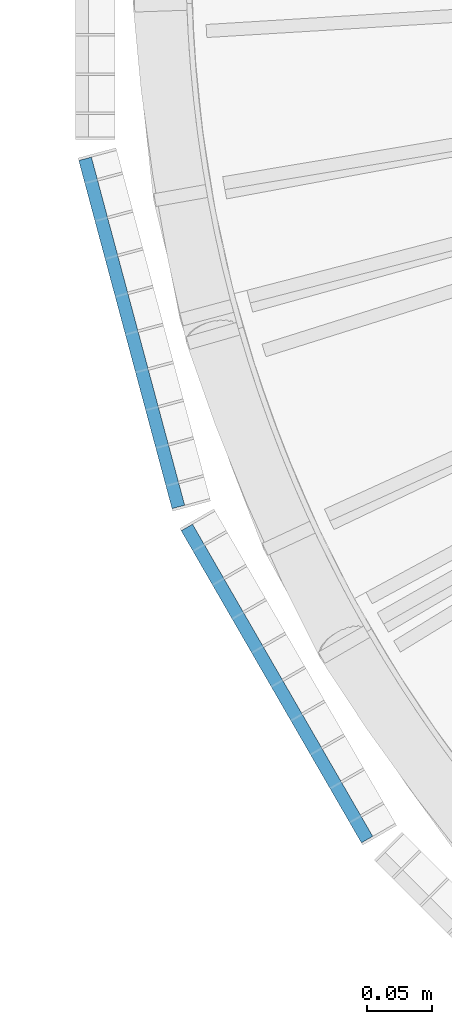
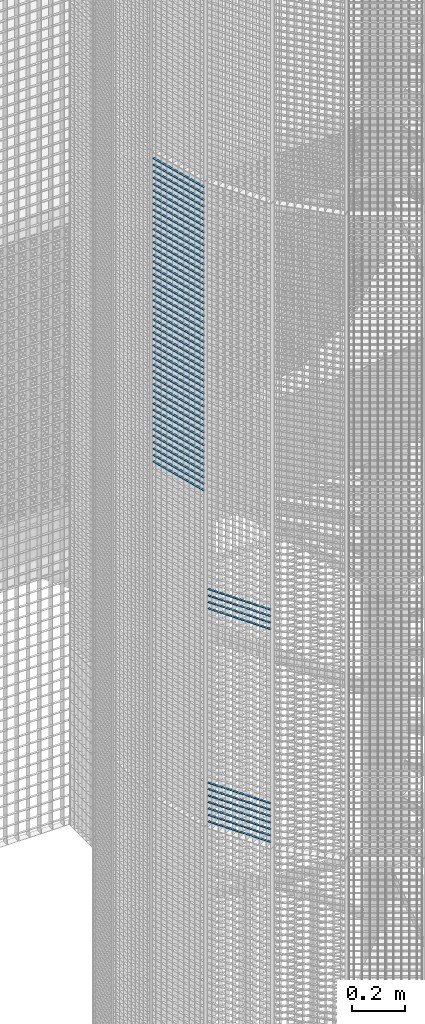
# One storey, part 121 of 1148: 59 beams, 2 elements without a shape of their own.
"""IFC2X3 building model written with IfcOpenShell, lengths in millimetres."""

from ifc_helpers import new_model, si_unit, frame, origin_with_axes, origin_2d_with_axis, place, context, subcontext, project, spatial, rectangle, extrude, material, type_object, element, aggregate, save


model = new_model("IFC2X3")

# Units and contexts
model_context = context("Model", 3, precision=1e-05, world=origin_with_axes())
body_context = subcontext(model_context, "Body", "Model", "MODEL_VIEW")
ifc_project = project(units=[si_unit("LENGTHUNIT", "METRE", prefix="MILLI"), si_unit("AREAUNIT", "SQUARE_METRE"), si_unit("VOLUMEUNIT", "CUBIC_METRE"), si_unit("MASSUNIT", "GRAM", prefix="KILO"), si_unit("TIMEUNIT", "SECOND"), si_unit("PLANEANGLEUNIT", "RADIAN"), si_unit("SOLIDANGLEUNIT", "STERADIAN"), si_unit("THERMODYNAMICTEMPERATUREUNIT", "DEGREE_CELSIUS"), si_unit("LUMINOUSINTENSITYUNIT", "LUMEN")], contexts=[model_context])

# Site, building, storey
site_placement = place(None, origin_with_axes())
site = spatial("IfcSite", under=ifc_project, at=site_placement, Name="Undefined", CompositionType="ELEMENT")
building_placement = place(site_placement, origin_with_axes())
building = spatial("IfcBuilding", under=site, at=building_placement, Name="Undefined", CompositionType="ELEMENT")
storey_placement = place(building_placement, origin_with_axes())
storey = spatial("IfcBuildingStorey", under=building, at=storey_placement, Name="Undefined", CompositionType="ELEMENT", Elevation=0.0)

# Assembly, beams
assembly_1_placement = place(storey_placement, origin_with_axes())
assembly_1 = element("IfcElementAssembly", 1, at=assembly_1_placement, inside=storey, Name="BORDURE", AssemblyPlace="NOTDEFINED", PredefinedType="NOTDEFINED")
ifc_material = material(Name="STEEL/S235JR")
beam_type = type_object("IfcBeamType", Name="PL2*10", PredefinedType="NOTDEFINED")
beam_1_placement = place(assembly_1_placement, frame((-1033.29996828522, -437.231955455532, 7020.0), z_axis=(-0.866025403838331, -0.499999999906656, 0.0), x_axis=(0.499999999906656, -0.866025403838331, 0.0)))
beam_1 = element("IfcBeam", 2, at=beam_1_placement, type_object=beam_type, material=ifc_material, Name="ENTRETOISE", context=body_context, shape_type="SweptSolid", body=[
    extrude(rectangle(XDim=2.0, YDim=10.0, at=origin_2d_with_axis()), frame((275.999999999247, 9.09494701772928e-13, 1.53210777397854e-14), z_axis=(-1.0, 0.0, 0.0), x_axis=(0.0, -1.0, 0.0)), (0.0, 0.0, 1.0), 276.0),
])
beam_2_placement = place(assembly_1_placement, frame((-1033.29996828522, -437.231955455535, 6210.0), z_axis=(-0.866025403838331, -0.499999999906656, 0.0), x_axis=(0.499999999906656, -0.866025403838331, 0.0)))
beam_2 = element("IfcBeam", 3, at=beam_2_placement, type_object=beam_type, material=ifc_material, Name="ENTRETOISE", context=body_context, shape_type="SweptSolid", body=[
    extrude(rectangle(XDim=2.0, YDim=10.0, at=origin_2d_with_axis()), frame((275.999999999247, 9.09494701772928e-13, 1.53210777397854e-14), z_axis=(-1.0, 0.0, 0.0), x_axis=(0.0, -1.0, 0.0)), (0.0, 0.0, 1.0), 276.0),
])
beam_3_placement = place(assembly_1_placement, frame((-1033.29996828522, -437.231955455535, 6180.0), z_axis=(-0.866025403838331, -0.499999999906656, 0.0), x_axis=(0.499999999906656, -0.866025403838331, 0.0)))
beam_3 = element("IfcBeam", 4, at=beam_3_placement, type_object=beam_type, material=ifc_material, Name="ENTRETOISE", context=body_context, shape_type="SweptSolid", body=[
    extrude(rectangle(XDim=2.0, YDim=10.0, at=origin_2d_with_axis()), frame((275.999999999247, 9.09494701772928e-13, 1.53210777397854e-14), z_axis=(-1.0, 0.0, 0.0), x_axis=(0.0, -1.0, 0.0)), (0.0, 0.0, 1.0), 276.0),
])
beam_4_placement = place(assembly_1_placement, frame((-1033.29996828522, -437.231955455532, 7050.0), z_axis=(-0.866025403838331, -0.499999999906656, 0.0), x_axis=(0.499999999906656, -0.866025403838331, 0.0)))
beam_4 = element("IfcBeam", 5, at=beam_4_placement, type_object=beam_type, material=ifc_material, Name="ENTRETOISE", context=body_context, shape_type="SweptSolid", body=[
    extrude(rectangle(XDim=2.0, YDim=10.0, at=origin_2d_with_axis()), frame((275.999999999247, 9.09494701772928e-13, 1.53210777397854e-14), z_axis=(-1.0, 0.0, 0.0), x_axis=(0.0, -1.0, 0.0)), (0.0, 0.0, 1.0), 276.0),
])
beam_5_placement = place(assembly_1_placement, frame((-1033.29996828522, -437.231955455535, 6150.0), z_axis=(-0.866025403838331, -0.499999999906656, 0.0), x_axis=(0.499999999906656, -0.866025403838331, 0.0)))
beam_5 = element("IfcBeam", 6, at=beam_5_placement, type_object=beam_type, material=ifc_material, Name="ENTRETOISE", context=body_context, shape_type="SweptSolid", body=[
    extrude(rectangle(XDim=2.0, YDim=10.0, at=origin_2d_with_axis()), frame((275.999999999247, 9.09494701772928e-13, 1.53210777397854e-14), z_axis=(-1.0, 0.0, 0.0), x_axis=(0.0, -1.0, 0.0)), (0.0, 0.0, 1.0), 276.0),
])
beam_6_placement = place(assembly_1_placement, frame((-1033.29996828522, -437.231955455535, 6120.0), z_axis=(-0.866025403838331, -0.499999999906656, 0.0), x_axis=(0.499999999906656, -0.866025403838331, 0.0)))
beam_6 = element("IfcBeam", 7, at=beam_6_placement, type_object=beam_type, material=ifc_material, Name="ENTRETOISE", context=body_context, shape_type="SweptSolid", body=[
    extrude(rectangle(XDim=2.0, YDim=10.0, at=origin_2d_with_axis()), frame((275.999999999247, 9.09494701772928e-13, 1.53210777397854e-14), z_axis=(-1.0, 0.0, 0.0), x_axis=(0.0, -1.0, 0.0)), (0.0, 0.0, 1.0), 276.0),
])
beam_7_placement = place(assembly_1_placement, frame((-1033.29996828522, -437.231955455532, 7080.0), z_axis=(-0.866025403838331, -0.499999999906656, 0.0), x_axis=(0.499999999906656, -0.866025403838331, 0.0)))
beam_7 = element("IfcBeam", 8, at=beam_7_placement, type_object=beam_type, material=ifc_material, Name="ENTRETOISE", context=body_context, shape_type="SweptSolid", body=[
    extrude(rectangle(XDim=2.0, YDim=10.0, at=origin_2d_with_axis()), frame((275.999999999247, 9.09494701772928e-13, 1.53210777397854e-14), z_axis=(-1.0, 0.0, 0.0), x_axis=(0.0, -1.0, 0.0)), (0.0, 0.0, 1.0), 276.0),
])
beam_8_placement = place(assembly_1_placement, frame((-1033.29996828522, -437.231955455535, 6090.0), z_axis=(-0.866025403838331, -0.499999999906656, 0.0), x_axis=(0.499999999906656, -0.866025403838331, 0.0)))
beam_8 = element("IfcBeam", 9, at=beam_8_placement, type_object=beam_type, material=ifc_material, Name="ENTRETOISE", context=body_context, shape_type="SweptSolid", body=[
    extrude(rectangle(XDim=2.0, YDim=10.0, at=origin_2d_with_axis()), frame((275.999999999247, 9.09494701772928e-13, 1.53210777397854e-14), z_axis=(-1.0, 0.0, 0.0), x_axis=(0.0, -1.0, 0.0)), (0.0, 0.0, 1.0), 276.0),
])
beam_9_placement = place(assembly_1_placement, frame((-1033.29996828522, -437.231955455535, 6060.0), z_axis=(-0.866025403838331, -0.499999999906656, 0.0), x_axis=(0.499999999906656, -0.866025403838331, 0.0)))
beam_9 = element("IfcBeam", 10, at=beam_9_placement, type_object=beam_type, material=ifc_material, Name="ENTRETOISE", context=body_context, shape_type="SweptSolid", body=[
    extrude(rectangle(XDim=2.0, YDim=10.0, at=origin_2d_with_axis()), frame((275.999999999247, 9.09494701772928e-13, 1.53210777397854e-14), z_axis=(-1.0, 0.0, 0.0), x_axis=(0.0, -1.0, 0.0)), (0.0, 0.0, 1.0), 276.0),
])
beam_10_placement = place(assembly_1_placement, frame((-1033.29996828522, -437.231955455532, 7110.0), z_axis=(-0.866025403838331, -0.499999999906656, 0.0), x_axis=(0.499999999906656, -0.866025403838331, 0.0)))
beam_10 = element("IfcBeam", 11, at=beam_10_placement, type_object=beam_type, material=ifc_material, Name="ENTRETOISE", context=body_context, shape_type="SweptSolid", body=[
    extrude(rectangle(XDim=2.0, YDim=10.0, at=origin_2d_with_axis()), frame((275.999999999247, 9.09494701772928e-13, 1.53210777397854e-14), z_axis=(-1.0, 0.0, 0.0), x_axis=(0.0, -1.0, 0.0)), (0.0, 0.0, 1.0), 276.0),
])
beam_11_placement = place(assembly_1_placement, frame((-1033.29996828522, -437.231955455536, 6030.0), z_axis=(-0.866025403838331, -0.499999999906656, 0.0), x_axis=(0.499999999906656, -0.866025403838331, 0.0)))
beam_11 = element("IfcBeam", 12, at=beam_11_placement, type_object=beam_type, material=ifc_material, Name="ENTRETOISE", context=body_context, shape_type="SweptSolid", body=[
    extrude(rectangle(XDim=2.0, YDim=10.0, at=origin_2d_with_axis()), frame((275.999999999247, 9.09494701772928e-13, 1.53210777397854e-14), z_axis=(-1.0, 0.0, 0.0), x_axis=(0.0, -1.0, 0.0)), (0.0, 0.0, 1.0), 276.0),
])
aggregate(assembly_1, [beam_1, beam_2, beam_3, beam_4, beam_5, beam_6, beam_7, beam_8, beam_9, beam_10, beam_11])

assembly_2_placement = place(storey_placement, origin_with_axes())
assembly_2 = element("IfcElementAssembly", 13, at=assembly_2_placement, inside=storey, Name="BORDURE", AssemblyPlace="NOTDEFINED", PredefinedType="NOTDEFINED")
beam_12_placement = place(assembly_2_placement, frame((-1111.25508286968, -154.895926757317, 8970.0), z_axis=(-0.965925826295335, -0.258819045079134, 0.0), x_axis=(0.258819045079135, -0.965925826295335, 0.0)))
beam_12 = element("IfcBeam", 14, at=beam_12_placement, type_object=beam_type, material=ifc_material, Name="ENTRETOISE", context=body_context, shape_type="SweptSolid", body=[
    extrude(rectangle(XDim=2.0, YDim=10.0, at=origin_2d_with_axis()), frame((275.999999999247, 9.09494701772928e-13, 1.53210777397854e-14), z_axis=(-1.0, 0.0, 0.0), x_axis=(0.0, -1.0, 0.0)), (0.0, 0.0, 1.0), 276.0),
])
beam_13_placement = place(assembly_2_placement, frame((-1111.25508286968, -154.895926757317, 8940.0), z_axis=(-0.965925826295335, -0.258819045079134, 0.0), x_axis=(0.258819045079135, -0.965925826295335, 0.0)))
beam_13 = element("IfcBeam", 15, at=beam_13_placement, type_object=beam_type, material=ifc_material, Name="ENTRETOISE", context=body_context, shape_type="SweptSolid", body=[
    extrude(rectangle(XDim=2.0, YDim=10.0, at=origin_2d_with_axis()), frame((275.999999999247, 9.09494701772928e-13, 1.53210777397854e-14), z_axis=(-1.0, 0.0, 0.0), x_axis=(0.0, -1.0, 0.0)), (0.0, 0.0, 1.0), 276.0),
])
beam_14_placement = place(assembly_2_placement, frame((-1111.25508286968, -154.895926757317, 8910.0), z_axis=(-0.965925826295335, -0.258819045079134, 0.0), x_axis=(0.258819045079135, -0.965925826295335, 0.0)))
beam_14 = element("IfcBeam", 16, at=beam_14_placement, type_object=beam_type, material=ifc_material, Name="ENTRETOISE", context=body_context, shape_type="SweptSolid", body=[
    extrude(rectangle(XDim=2.0, YDim=10.0, at=origin_2d_with_axis()), frame((275.999999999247, 9.09494701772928e-13, 1.53210777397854e-14), z_axis=(-1.0, 0.0, 0.0), x_axis=(0.0, -1.0, 0.0)), (0.0, 0.0, 1.0), 276.0),
])
beam_15_placement = place(assembly_2_placement, frame((-1111.25508286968, -154.895926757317, 8880.0), z_axis=(-0.965925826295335, -0.258819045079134, 0.0), x_axis=(0.258819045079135, -0.965925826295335, 0.0)))
beam_15 = element("IfcBeam", 17, at=beam_15_placement, type_object=beam_type, material=ifc_material, Name="ENTRETOISE", context=body_context, shape_type="SweptSolid", body=[
    extrude(rectangle(XDim=2.0, YDim=10.0, at=origin_2d_with_axis()), frame((275.999999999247, 9.09494701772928e-13, 1.53210777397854e-14), z_axis=(-1.0, 0.0, 0.0), x_axis=(0.0, -1.0, 0.0)), (0.0, 0.0, 1.0), 276.0),
])
beam_16_placement = place(assembly_2_placement, frame((-1111.25508286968, -154.895926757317, 8850.0), z_axis=(-0.965925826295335, -0.258819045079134, 0.0), x_axis=(0.258819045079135, -0.965925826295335, 0.0)))
beam_16 = element("IfcBeam", 18, at=beam_16_placement, type_object=beam_type, material=ifc_material, Name="ENTRETOISE", context=body_context, shape_type="SweptSolid", body=[
    extrude(rectangle(XDim=2.0, YDim=10.0, at=origin_2d_with_axis()), frame((275.999999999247, 9.09494701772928e-13, 1.53210777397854e-14), z_axis=(-1.0, 0.0, 0.0), x_axis=(0.0, -1.0, 0.0)), (0.0, 0.0, 1.0), 276.0),
])
beam_17_placement = place(assembly_2_placement, frame((-1111.25508286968, -154.895926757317, 8820.0), z_axis=(-0.965925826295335, -0.258819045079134, 0.0), x_axis=(0.258819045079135, -0.965925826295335, 0.0)))
beam_17 = element("IfcBeam", 19, at=beam_17_placement, type_object=beam_type, material=ifc_material, Name="ENTRETOISE", context=body_context, shape_type="SweptSolid", body=[
    extrude(rectangle(XDim=2.0, YDim=10.0, at=origin_2d_with_axis()), frame((275.999999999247, 9.09494701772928e-13, 1.53210777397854e-14), z_axis=(-1.0, 0.0, 0.0), x_axis=(0.0, -1.0, 0.0)), (0.0, 0.0, 1.0), 276.0),
])
beam_18_placement = place(assembly_2_placement, frame((-1111.25508286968, -154.895926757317, 8790.0), z_axis=(-0.965925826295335, -0.258819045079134, 0.0), x_axis=(0.258819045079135, -0.965925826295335, 0.0)))
beam_18 = element("IfcBeam", 20, at=beam_18_placement, type_object=beam_type, material=ifc_material, Name="ENTRETOISE", context=body_context, shape_type="SweptSolid", body=[
    extrude(rectangle(XDim=2.0, YDim=10.0, at=origin_2d_with_axis()), frame((275.999999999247, 9.09494701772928e-13, 1.53210777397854e-14), z_axis=(-1.0, 0.0, 0.0), x_axis=(0.0, -1.0, 0.0)), (0.0, 0.0, 1.0), 276.0),
])
beam_19_placement = place(assembly_2_placement, frame((-1111.25508286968, -154.895926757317, 8760.0), z_axis=(-0.965925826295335, -0.258819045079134, 0.0), x_axis=(0.258819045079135, -0.965925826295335, 0.0)))
beam_19 = element("IfcBeam", 21, at=beam_19_placement, type_object=beam_type, material=ifc_material, Name="ENTRETOISE", context=body_context, shape_type="SweptSolid", body=[
    extrude(rectangle(XDim=2.0, YDim=10.0, at=origin_2d_with_axis()), frame((275.999999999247, 9.09494701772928e-13, 1.53210777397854e-14), z_axis=(-1.0, 0.0, 0.0), x_axis=(0.0, -1.0, 0.0)), (0.0, 0.0, 1.0), 276.0),
])
beam_20_placement = place(assembly_2_placement, frame((-1111.25508286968, -154.895926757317, 8730.0), z_axis=(-0.965925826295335, -0.258819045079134, 0.0), x_axis=(0.258819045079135, -0.965925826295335, 0.0)))
beam_20 = element("IfcBeam", 22, at=beam_20_placement, type_object=beam_type, material=ifc_material, Name="ENTRETOISE", context=body_context, shape_type="SweptSolid", body=[
    extrude(rectangle(XDim=2.0, YDim=10.0, at=origin_2d_with_axis()), frame((275.999999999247, 9.09494701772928e-13, 1.53210777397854e-14), z_axis=(-1.0, 0.0, 0.0), x_axis=(0.0, -1.0, 0.0)), (0.0, 0.0, 1.0), 276.0),
])
beam_21_placement = place(assembly_2_placement, frame((-1111.25508286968, -154.895926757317, 8700.0), z_axis=(-0.965925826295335, -0.258819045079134, 0.0), x_axis=(0.258819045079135, -0.965925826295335, 0.0)))
beam_21 = element("IfcBeam", 23, at=beam_21_placement, type_object=beam_type, material=ifc_material, Name="ENTRETOISE", context=body_context, shape_type="SweptSolid", body=[
    extrude(rectangle(XDim=2.0, YDim=10.0, at=origin_2d_with_axis()), frame((275.999999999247, 9.09494701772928e-13, 1.53210777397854e-14), z_axis=(-1.0, 0.0, 0.0), x_axis=(0.0, -1.0, 0.0)), (0.0, 0.0, 1.0), 276.0),
])
beam_22_placement = place(assembly_2_placement, frame((-1111.25508286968, -154.895926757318, 8670.0), z_axis=(-0.965925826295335, -0.258819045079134, 0.0), x_axis=(0.258819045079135, -0.965925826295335, 0.0)))
beam_22 = element("IfcBeam", 24, at=beam_22_placement, type_object=beam_type, material=ifc_material, Name="ENTRETOISE", context=body_context, shape_type="SweptSolid", body=[
    extrude(rectangle(XDim=2.0, YDim=10.0, at=origin_2d_with_axis()), frame((275.999999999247, 9.09494701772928e-13, 1.53210777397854e-14), z_axis=(-1.0, 0.0, 0.0), x_axis=(0.0, -1.0, 0.0)), (0.0, 0.0, 1.0), 276.0),
])
beam_23_placement = place(assembly_2_placement, frame((-1111.25508286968, -154.895926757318, 8640.0), z_axis=(-0.965925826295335, -0.258819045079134, 0.0), x_axis=(0.258819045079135, -0.965925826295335, 0.0)))
beam_23 = element("IfcBeam", 25, at=beam_23_placement, type_object=beam_type, material=ifc_material, Name="ENTRETOISE", context=body_context, shape_type="SweptSolid", body=[
    extrude(rectangle(XDim=2.0, YDim=10.0, at=origin_2d_with_axis()), frame((275.999999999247, 9.09494701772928e-13, 1.53210777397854e-14), z_axis=(-1.0, 0.0, 0.0), x_axis=(0.0, -1.0, 0.0)), (0.0, 0.0, 1.0), 276.0),
])
beam_24_placement = place(assembly_2_placement, frame((-1111.25508286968, -154.895926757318, 8610.0), z_axis=(-0.965925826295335, -0.258819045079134, 0.0), x_axis=(0.258819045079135, -0.965925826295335, 0.0)))
beam_24 = element("IfcBeam", 26, at=beam_24_placement, type_object=beam_type, material=ifc_material, Name="ENTRETOISE", context=body_context, shape_type="SweptSolid", body=[
    extrude(rectangle(XDim=2.0, YDim=10.0, at=origin_2d_with_axis()), frame((275.999999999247, 9.09494701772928e-13, 1.53210777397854e-14), z_axis=(-1.0, 0.0, 0.0), x_axis=(0.0, -1.0, 0.0)), (0.0, 0.0, 1.0), 276.0),
])
beam_25_placement = place(assembly_2_placement, frame((-1111.25508286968, -154.895926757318, 8580.0), z_axis=(-0.965925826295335, -0.258819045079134, 0.0), x_axis=(0.258819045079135, -0.965925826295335, 0.0)))
beam_25 = element("IfcBeam", 27, at=beam_25_placement, type_object=beam_type, material=ifc_material, Name="ENTRETOISE", context=body_context, shape_type="SweptSolid", body=[
    extrude(rectangle(XDim=2.0, YDim=10.0, at=origin_2d_with_axis()), frame((275.999999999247, 9.09494701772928e-13, 1.53210777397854e-14), z_axis=(-1.0, 0.0, 0.0), x_axis=(0.0, -1.0, 0.0)), (0.0, 0.0, 1.0), 276.0),
])
beam_26_placement = place(assembly_2_placement, frame((-1111.25508286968, -154.895926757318, 8550.0), z_axis=(-0.965925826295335, -0.258819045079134, 0.0), x_axis=(0.258819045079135, -0.965925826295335, 0.0)))
beam_26 = element("IfcBeam", 28, at=beam_26_placement, type_object=beam_type, material=ifc_material, Name="ENTRETOISE", context=body_context, shape_type="SweptSolid", body=[
    extrude(rectangle(XDim=2.0, YDim=10.0, at=origin_2d_with_axis()), frame((275.999999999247, 9.09494701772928e-13, 1.53210777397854e-14), z_axis=(-1.0, 0.0, 0.0), x_axis=(0.0, -1.0, 0.0)), (0.0, 0.0, 1.0), 276.0),
])
beam_27_placement = place(assembly_2_placement, frame((-1111.25508286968, -154.895926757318, 8520.0), z_axis=(-0.965925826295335, -0.258819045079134, 0.0), x_axis=(0.258819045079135, -0.965925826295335, 0.0)))
beam_27 = element("IfcBeam", 29, at=beam_27_placement, type_object=beam_type, material=ifc_material, Name="ENTRETOISE", context=body_context, shape_type="SweptSolid", body=[
    extrude(rectangle(XDim=2.0, YDim=10.0, at=origin_2d_with_axis()), frame((275.999999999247, 9.09494701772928e-13, 1.53210777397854e-14), z_axis=(-1.0, 0.0, 0.0), x_axis=(0.0, -1.0, 0.0)), (0.0, 0.0, 1.0), 276.0),
])
beam_28_placement = place(assembly_2_placement, frame((-1111.25508286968, -154.895926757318, 8490.0), z_axis=(-0.965925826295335, -0.258819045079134, 0.0), x_axis=(0.258819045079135, -0.965925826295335, 0.0)))
beam_28 = element("IfcBeam", 30, at=beam_28_placement, type_object=beam_type, material=ifc_material, Name="ENTRETOISE", context=body_context, shape_type="SweptSolid", body=[
    extrude(rectangle(XDim=2.0, YDim=10.0, at=origin_2d_with_axis()), frame((275.999999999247, 9.09494701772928e-13, 1.53210777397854e-14), z_axis=(-1.0, 0.0, 0.0), x_axis=(0.0, -1.0, 0.0)), (0.0, 0.0, 1.0), 276.0),
])
beam_29_placement = place(assembly_2_placement, frame((-1111.25508286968, -154.895926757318, 8460.0), z_axis=(-0.965925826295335, -0.258819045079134, 0.0), x_axis=(0.258819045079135, -0.965925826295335, 0.0)))
beam_29 = element("IfcBeam", 31, at=beam_29_placement, type_object=beam_type, material=ifc_material, Name="ENTRETOISE", context=body_context, shape_type="SweptSolid", body=[
    extrude(rectangle(XDim=2.0, YDim=10.0, at=origin_2d_with_axis()), frame((275.999999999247, 9.09494701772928e-13, 1.53210777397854e-14), z_axis=(-1.0, 0.0, 0.0), x_axis=(0.0, -1.0, 0.0)), (0.0, 0.0, 1.0), 276.0),
])
beam_30_placement = place(assembly_2_placement, frame((-1111.25508286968, -154.895926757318, 8430.0), z_axis=(-0.965925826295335, -0.258819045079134, 0.0), x_axis=(0.258819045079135, -0.965925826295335, 0.0)))
beam_30 = element("IfcBeam", 32, at=beam_30_placement, type_object=beam_type, material=ifc_material, Name="ENTRETOISE", context=body_context, shape_type="SweptSolid", body=[
    extrude(rectangle(XDim=2.0, YDim=10.0, at=origin_2d_with_axis()), frame((275.999999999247, 9.09494701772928e-13, 1.53210777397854e-14), z_axis=(-1.0, 0.0, 0.0), x_axis=(0.0, -1.0, 0.0)), (0.0, 0.0, 1.0), 276.0),
])
beam_31_placement = place(assembly_2_placement, frame((-1111.25508286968, -154.895926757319, 8400.0), z_axis=(-0.965925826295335, -0.258819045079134, 0.0), x_axis=(0.258819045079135, -0.965925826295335, 0.0)))
beam_31 = element("IfcBeam", 33, at=beam_31_placement, type_object=beam_type, material=ifc_material, Name="ENTRETOISE", context=body_context, shape_type="SweptSolid", body=[
    extrude(rectangle(XDim=2.0, YDim=10.0, at=origin_2d_with_axis()), frame((275.999999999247, 9.09494701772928e-13, 1.53210777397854e-14), z_axis=(-1.0, 0.0, 0.0), x_axis=(0.0, -1.0, 0.0)), (0.0, 0.0, 1.0), 276.0),
])
beam_32_placement = place(assembly_2_placement, frame((-1111.25508286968, -154.895926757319, 8370.0), z_axis=(-0.965925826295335, -0.258819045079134, 0.0), x_axis=(0.258819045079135, -0.965925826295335, 0.0)))
beam_32 = element("IfcBeam", 34, at=beam_32_placement, type_object=beam_type, material=ifc_material, Name="ENTRETOISE", context=body_context, shape_type="SweptSolid", body=[
    extrude(rectangle(XDim=2.0, YDim=10.0, at=origin_2d_with_axis()), frame((275.999999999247, 9.09494701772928e-13, 1.53210777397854e-14), z_axis=(-1.0, 0.0, 0.0), x_axis=(0.0, -1.0, 0.0)), (0.0, 0.0, 1.0), 276.0),
])
beam_33_placement = place(assembly_2_placement, frame((-1111.25508286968, -154.895926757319, 8340.0), z_axis=(-0.965925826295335, -0.258819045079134, 0.0), x_axis=(0.258819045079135, -0.965925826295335, 0.0)))
beam_33 = element("IfcBeam", 35, at=beam_33_placement, type_object=beam_type, material=ifc_material, Name="ENTRETOISE", context=body_context, shape_type="SweptSolid", body=[
    extrude(rectangle(XDim=2.0, YDim=10.0, at=origin_2d_with_axis()), frame((275.999999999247, 9.09494701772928e-13, 1.53210777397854e-14), z_axis=(-1.0, 0.0, 0.0), x_axis=(0.0, -1.0, 0.0)), (0.0, 0.0, 1.0), 276.0),
])
beam_34_placement = place(assembly_2_placement, frame((-1111.25508286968, -154.895926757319, 8310.0), z_axis=(-0.965925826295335, -0.258819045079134, 0.0), x_axis=(0.258819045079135, -0.965925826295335, 0.0)))
beam_34 = element("IfcBeam", 36, at=beam_34_placement, type_object=beam_type, material=ifc_material, Name="ENTRETOISE", context=body_context, shape_type="SweptSolid", body=[
    extrude(rectangle(XDim=2.0, YDim=10.0, at=origin_2d_with_axis()), frame((275.999999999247, 9.09494701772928e-13, 1.53210777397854e-14), z_axis=(-1.0, 0.0, 0.0), x_axis=(0.0, -1.0, 0.0)), (0.0, 0.0, 1.0), 276.0),
])
beam_35_placement = place(assembly_2_placement, frame((-1111.25508286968, -154.895926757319, 8280.0), z_axis=(-0.965925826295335, -0.258819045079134, 0.0), x_axis=(0.258819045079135, -0.965925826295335, 0.0)))
beam_35 = element("IfcBeam", 37, at=beam_35_placement, type_object=beam_type, material=ifc_material, Name="ENTRETOISE", context=body_context, shape_type="SweptSolid", body=[
    extrude(rectangle(XDim=2.0, YDim=10.0, at=origin_2d_with_axis()), frame((275.999999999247, 9.09494701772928e-13, 1.53210777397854e-14), z_axis=(-1.0, 0.0, 0.0), x_axis=(0.0, -1.0, 0.0)), (0.0, 0.0, 1.0), 276.0),
])
beam_36_placement = place(assembly_2_placement, frame((-1111.25508286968, -154.895926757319, 8250.0), z_axis=(-0.965925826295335, -0.258819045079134, 0.0), x_axis=(0.258819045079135, -0.965925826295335, 0.0)))
beam_36 = element("IfcBeam", 38, at=beam_36_placement, type_object=beam_type, material=ifc_material, Name="ENTRETOISE", context=body_context, shape_type="SweptSolid", body=[
    extrude(rectangle(XDim=2.0, YDim=10.0, at=origin_2d_with_axis()), frame((275.999999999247, 9.09494701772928e-13, 1.53210777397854e-14), z_axis=(-1.0, 0.0, 0.0), x_axis=(0.0, -1.0, 0.0)), (0.0, 0.0, 1.0), 276.0),
])
beam_37_placement = place(assembly_2_placement, frame((-1111.25508286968, -154.895926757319, 8220.0), z_axis=(-0.965925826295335, -0.258819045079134, 0.0), x_axis=(0.258819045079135, -0.965925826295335, 0.0)))
beam_37 = element("IfcBeam", 39, at=beam_37_placement, type_object=beam_type, material=ifc_material, Name="ENTRETOISE", context=body_context, shape_type="SweptSolid", body=[
    extrude(rectangle(XDim=2.0, YDim=10.0, at=origin_2d_with_axis()), frame((275.999999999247, 9.09494701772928e-13, 1.53210777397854e-14), z_axis=(-1.0, 0.0, 0.0), x_axis=(0.0, -1.0, 0.0)), (0.0, 0.0, 1.0), 276.0),
])
beam_38_placement = place(assembly_2_placement, frame((-1111.25508286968, -154.895926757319, 8190.0), z_axis=(-0.965925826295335, -0.258819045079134, 0.0), x_axis=(0.258819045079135, -0.965925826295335, 0.0)))
beam_38 = element("IfcBeam", 40, at=beam_38_placement, type_object=beam_type, material=ifc_material, Name="ENTRETOISE", context=body_context, shape_type="SweptSolid", body=[
    extrude(rectangle(XDim=2.0, YDim=10.0, at=origin_2d_with_axis()), frame((275.999999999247, 9.09494701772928e-13, 1.53210777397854e-14), z_axis=(-1.0, 0.0, 0.0), x_axis=(0.0, -1.0, 0.0)), (0.0, 0.0, 1.0), 276.0),
])
beam_39_placement = place(assembly_2_placement, frame((-1111.25508286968, -154.895926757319, 8160.0), z_axis=(-0.965925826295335, -0.258819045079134, 0.0), x_axis=(0.258819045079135, -0.965925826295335, 0.0)))
beam_39 = element("IfcBeam", 41, at=beam_39_placement, type_object=beam_type, material=ifc_material, Name="ENTRETOISE", context=body_context, shape_type="SweptSolid", body=[
    extrude(rectangle(XDim=2.0, YDim=10.0, at=origin_2d_with_axis()), frame((275.999999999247, 9.09494701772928e-13, 1.53210777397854e-14), z_axis=(-1.0, 0.0, 0.0), x_axis=(0.0, -1.0, 0.0)), (0.0, 0.0, 1.0), 276.0),
])
beam_40_placement = place(assembly_2_placement, frame((-1111.25508286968, -154.89592675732, 8130.0), z_axis=(-0.965925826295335, -0.258819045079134, 0.0), x_axis=(0.258819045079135, -0.965925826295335, 0.0)))
beam_40 = element("IfcBeam", 42, at=beam_40_placement, type_object=beam_type, material=ifc_material, Name="ENTRETOISE", context=body_context, shape_type="SweptSolid", body=[
    extrude(rectangle(XDim=2.0, YDim=10.0, at=origin_2d_with_axis()), frame((275.999999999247, 9.09494701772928e-13, 1.53210777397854e-14), z_axis=(-1.0, 0.0, 0.0), x_axis=(0.0, -1.0, 0.0)), (0.0, 0.0, 1.0), 276.0),
])
beam_41_placement = place(assembly_2_placement, frame((-1111.25508286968, -154.89592675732, 8100.0), z_axis=(-0.965925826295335, -0.258819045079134, 0.0), x_axis=(0.258819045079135, -0.965925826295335, 0.0)))
beam_41 = element("IfcBeam", 43, at=beam_41_placement, type_object=beam_type, material=ifc_material, Name="ENTRETOISE", context=body_context, shape_type="SweptSolid", body=[
    extrude(rectangle(XDim=2.0, YDim=10.0, at=origin_2d_with_axis()), frame((275.999999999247, 9.09494701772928e-13, 1.53210777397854e-14), z_axis=(-1.0, 0.0, 0.0), x_axis=(0.0, -1.0, 0.0)), (0.0, 0.0, 1.0), 276.0),
])
beam_42_placement = place(assembly_2_placement, frame((-1111.25508286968, -154.89592675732, 8070.0), z_axis=(-0.965925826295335, -0.258819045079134, 0.0), x_axis=(0.258819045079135, -0.965925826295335, 0.0)))
beam_42 = element("IfcBeam", 44, at=beam_42_placement, type_object=beam_type, material=ifc_material, Name="ENTRETOISE", context=body_context, shape_type="SweptSolid", body=[
    extrude(rectangle(XDim=2.0, YDim=10.0, at=origin_2d_with_axis()), frame((275.999999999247, 9.09494701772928e-13, 1.53210777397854e-14), z_axis=(-1.0, 0.0, 0.0), x_axis=(0.0, -1.0, 0.0)), (0.0, 0.0, 1.0), 276.0),
])
beam_43_placement = place(assembly_2_placement, frame((-1111.25508286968, -154.89592675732, 8040.0), z_axis=(-0.965925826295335, -0.258819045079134, 0.0), x_axis=(0.258819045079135, -0.965925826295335, 0.0)))
beam_43 = element("IfcBeam", 45, at=beam_43_placement, type_object=beam_type, material=ifc_material, Name="ENTRETOISE", context=body_context, shape_type="SweptSolid", body=[
    extrude(rectangle(XDim=2.0, YDim=10.0, at=origin_2d_with_axis()), frame((275.999999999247, 9.09494701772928e-13, 1.53210777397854e-14), z_axis=(-1.0, 0.0, 0.0), x_axis=(0.0, -1.0, 0.0)), (0.0, 0.0, 1.0), 276.0),
])
beam_44_placement = place(assembly_2_placement, frame((-1111.25508286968, -154.89592675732, 8010.0), z_axis=(-0.965925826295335, -0.258819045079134, 0.0), x_axis=(0.258819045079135, -0.965925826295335, 0.0)))
beam_44 = element("IfcBeam", 46, at=beam_44_placement, type_object=beam_type, material=ifc_material, Name="ENTRETOISE", context=body_context, shape_type="SweptSolid", body=[
    extrude(rectangle(XDim=2.0, YDim=10.0, at=origin_2d_with_axis()), frame((275.999999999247, 9.09494701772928e-13, 1.53210777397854e-14), z_axis=(-1.0, 0.0, 0.0), x_axis=(0.0, -1.0, 0.0)), (0.0, 0.0, 1.0), 276.0),
])
beam_45_placement = place(assembly_2_placement, frame((-1111.25508286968, -154.89592675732, 7980.0), z_axis=(-0.965925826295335, -0.258819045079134, 0.0), x_axis=(0.258819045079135, -0.965925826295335, 0.0)))
beam_45 = element("IfcBeam", 47, at=beam_45_placement, type_object=beam_type, material=ifc_material, Name="ENTRETOISE", context=body_context, shape_type="SweptSolid", body=[
    extrude(rectangle(XDim=2.0, YDim=10.0, at=origin_2d_with_axis()), frame((275.999999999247, 9.09494701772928e-13, 1.53210777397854e-14), z_axis=(-1.0, 0.0, 0.0), x_axis=(0.0, -1.0, 0.0)), (0.0, 0.0, 1.0), 276.0),
])
beam_46_placement = place(assembly_2_placement, frame((-1111.25508286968, -154.89592675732, 7950.0), z_axis=(-0.965925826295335, -0.258819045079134, 0.0), x_axis=(0.258819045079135, -0.965925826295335, 0.0)))
beam_46 = element("IfcBeam", 48, at=beam_46_placement, type_object=beam_type, material=ifc_material, Name="ENTRETOISE", context=body_context, shape_type="SweptSolid", body=[
    extrude(rectangle(XDim=2.0, YDim=10.0, at=origin_2d_with_axis()), frame((275.999999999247, 9.09494701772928e-13, 1.53210777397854e-14), z_axis=(-1.0, 0.0, 0.0), x_axis=(0.0, -1.0, 0.0)), (0.0, 0.0, 1.0), 276.0),
])
beam_47_placement = place(assembly_2_placement, frame((-1111.25508286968, -154.89592675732, 7920.0), z_axis=(-0.965925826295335, -0.258819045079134, 0.0), x_axis=(0.258819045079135, -0.965925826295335, 0.0)))
beam_47 = element("IfcBeam", 49, at=beam_47_placement, type_object=beam_type, material=ifc_material, Name="ENTRETOISE", context=body_context, shape_type="SweptSolid", body=[
    extrude(rectangle(XDim=2.0, YDim=10.0, at=origin_2d_with_axis()), frame((275.999999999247, 9.09494701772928e-13, 1.53210777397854e-14), z_axis=(-1.0, 0.0, 0.0), x_axis=(0.0, -1.0, 0.0)), (0.0, 0.0, 1.0), 276.0),
])
beam_48_placement = place(assembly_2_placement, frame((-1111.25508286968, -154.89592675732, 7890.0), z_axis=(-0.965925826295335, -0.258819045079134, 0.0), x_axis=(0.258819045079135, -0.965925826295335, 0.0)))
beam_48 = element("IfcBeam", 50, at=beam_48_placement, type_object=beam_type, material=ifc_material, Name="ENTRETOISE", context=body_context, shape_type="SweptSolid", body=[
    extrude(rectangle(XDim=2.0, YDim=10.0, at=origin_2d_with_axis()), frame((275.999999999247, 9.09494701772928e-13, 1.53210777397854e-14), z_axis=(-1.0, 0.0, 0.0), x_axis=(0.0, -1.0, 0.0)), (0.0, 0.0, 1.0), 276.0),
])
beam_49_placement = place(assembly_2_placement, frame((-1111.25508286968, -154.895926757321, 7860.0), z_axis=(-0.965925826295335, -0.258819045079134, 0.0), x_axis=(0.258819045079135, -0.965925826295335, 0.0)))
beam_49 = element("IfcBeam", 51, at=beam_49_placement, type_object=beam_type, material=ifc_material, Name="ENTRETOISE", context=body_context, shape_type="SweptSolid", body=[
    extrude(rectangle(XDim=2.0, YDim=10.0, at=origin_2d_with_axis()), frame((275.999999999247, 9.09494701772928e-13, 1.53210777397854e-14), z_axis=(-1.0, 0.0, 0.0), x_axis=(0.0, -1.0, 0.0)), (0.0, 0.0, 1.0), 276.0),
])
beam_50_placement = place(assembly_2_placement, frame((-1111.25508286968, -154.895926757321, 7830.0), z_axis=(-0.965925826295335, -0.258819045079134, 0.0), x_axis=(0.258819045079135, -0.965925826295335, 0.0)))
beam_50 = element("IfcBeam", 52, at=beam_50_placement, type_object=beam_type, material=ifc_material, Name="ENTRETOISE", context=body_context, shape_type="SweptSolid", body=[
    extrude(rectangle(XDim=2.0, YDim=10.0, at=origin_2d_with_axis()), frame((275.999999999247, 9.09494701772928e-13, 1.53210777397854e-14), z_axis=(-1.0, 0.0, 0.0), x_axis=(0.0, -1.0, 0.0)), (0.0, 0.0, 1.0), 276.0),
])
beam_51_placement = place(assembly_2_placement, frame((-1111.25508286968, -154.895926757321, 7800.0), z_axis=(-0.965925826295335, -0.258819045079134, 0.0), x_axis=(0.258819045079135, -0.965925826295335, 0.0)))
beam_51 = element("IfcBeam", 53, at=beam_51_placement, type_object=beam_type, material=ifc_material, Name="ENTRETOISE", context=body_context, shape_type="SweptSolid", body=[
    extrude(rectangle(XDim=2.0, YDim=10.0, at=origin_2d_with_axis()), frame((275.999999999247, 9.09494701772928e-13, 1.53210777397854e-14), z_axis=(-1.0, 0.0, 0.0), x_axis=(0.0, -1.0, 0.0)), (0.0, 0.0, 1.0), 276.0),
])
beam_52_placement = place(assembly_2_placement, frame((-1111.25508286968, -154.895926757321, 7770.0), z_axis=(-0.965925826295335, -0.258819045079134, 0.0), x_axis=(0.258819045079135, -0.965925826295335, 0.0)))
beam_52 = element("IfcBeam", 54, at=beam_52_placement, type_object=beam_type, material=ifc_material, Name="ENTRETOISE", context=body_context, shape_type="SweptSolid", body=[
    extrude(rectangle(XDim=2.0, YDim=10.0, at=origin_2d_with_axis()), frame((275.999999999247, 9.09494701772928e-13, 1.53210777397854e-14), z_axis=(-1.0, 0.0, 0.0), x_axis=(0.0, -1.0, 0.0)), (0.0, 0.0, 1.0), 276.0),
])
beam_53_placement = place(assembly_2_placement, frame((-1111.25508286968, -154.895926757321, 7740.0), z_axis=(-0.965925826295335, -0.258819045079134, 0.0), x_axis=(0.258819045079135, -0.965925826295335, 0.0)))
beam_53 = element("IfcBeam", 55, at=beam_53_placement, type_object=beam_type, material=ifc_material, Name="ENTRETOISE", context=body_context, shape_type="SweptSolid", body=[
    extrude(rectangle(XDim=2.0, YDim=10.0, at=origin_2d_with_axis()), frame((275.999999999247, 9.09494701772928e-13, 1.53210777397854e-14), z_axis=(-1.0, 0.0, 0.0), x_axis=(0.0, -1.0, 0.0)), (0.0, 0.0, 1.0), 276.0),
])
beam_54_placement = place(assembly_2_placement, frame((-1111.25508286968, -154.895926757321, 7710.0), z_axis=(-0.965925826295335, -0.258819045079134, 0.0), x_axis=(0.258819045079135, -0.965925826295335, 0.0)))
beam_54 = element("IfcBeam", 56, at=beam_54_placement, type_object=beam_type, material=ifc_material, Name="ENTRETOISE", context=body_context, shape_type="SweptSolid", body=[
    extrude(rectangle(XDim=2.0, YDim=10.0, at=origin_2d_with_axis()), frame((275.999999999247, 9.09494701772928e-13, 1.53210777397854e-14), z_axis=(-1.0, 0.0, 0.0), x_axis=(0.0, -1.0, 0.0)), (0.0, 0.0, 1.0), 276.0),
])
beam_55_placement = place(assembly_2_placement, frame((-1111.25508286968, -154.895926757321, 7680.0), z_axis=(-0.965925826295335, -0.258819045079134, 0.0), x_axis=(0.258819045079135, -0.965925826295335, 0.0)))
beam_55 = element("IfcBeam", 57, at=beam_55_placement, type_object=beam_type, material=ifc_material, Name="ENTRETOISE", context=body_context, shape_type="SweptSolid", body=[
    extrude(rectangle(XDim=2.0, YDim=10.0, at=origin_2d_with_axis()), frame((275.999999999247, 9.09494701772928e-13, 1.53210777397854e-14), z_axis=(-1.0, 0.0, 0.0), x_axis=(0.0, -1.0, 0.0)), (0.0, 0.0, 1.0), 276.0),
])
beam_56_placement = place(assembly_2_placement, frame((-1111.25508286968, -154.895926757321, 7650.0), z_axis=(-0.965925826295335, -0.258819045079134, 0.0), x_axis=(0.258819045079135, -0.965925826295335, 0.0)))
beam_56 = element("IfcBeam", 58, at=beam_56_placement, type_object=beam_type, material=ifc_material, Name="ENTRETOISE", context=body_context, shape_type="SweptSolid", body=[
    extrude(rectangle(XDim=2.0, YDim=10.0, at=origin_2d_with_axis()), frame((275.999999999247, 9.09494701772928e-13, 1.53210777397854e-14), z_axis=(-1.0, 0.0, 0.0), x_axis=(0.0, -1.0, 0.0)), (0.0, 0.0, 1.0), 276.0),
])
beam_57_placement = place(assembly_2_placement, frame((-1111.25508286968, -154.895926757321, 7620.0), z_axis=(-0.965925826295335, -0.258819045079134, 0.0), x_axis=(0.258819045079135, -0.965925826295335, 0.0)))
beam_57 = element("IfcBeam", 59, at=beam_57_placement, type_object=beam_type, material=ifc_material, Name="ENTRETOISE", context=body_context, shape_type="SweptSolid", body=[
    extrude(rectangle(XDim=2.0, YDim=10.0, at=origin_2d_with_axis()), frame((275.999999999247, 9.09494701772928e-13, 1.53210777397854e-14), z_axis=(-1.0, 0.0, 0.0), x_axis=(0.0, -1.0, 0.0)), (0.0, 0.0, 1.0), 276.0),
])
beam_58_placement = place(assembly_2_placement, frame((-1111.25508286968, -154.895926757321, 7590.0), z_axis=(-0.965925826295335, -0.258819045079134, 0.0), x_axis=(0.258819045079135, -0.965925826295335, 0.0)))
beam_58 = element("IfcBeam", 60, at=beam_58_placement, type_object=beam_type, material=ifc_material, Name="ENTRETOISE", context=body_context, shape_type="SweptSolid", body=[
    extrude(rectangle(XDim=2.0, YDim=10.0, at=origin_2d_with_axis()), frame((275.999999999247, 9.09494701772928e-13, 1.53210777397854e-14), z_axis=(-1.0, 0.0, 0.0), x_axis=(0.0, -1.0, 0.0)), (0.0, 0.0, 1.0), 276.0),
])
beam_59_placement = place(assembly_2_placement, frame((-1111.25508286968, -154.895926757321, 7560.0), z_axis=(-0.965925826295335, -0.258819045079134, 0.0), x_axis=(0.258819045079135, -0.965925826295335, 0.0)))
beam_59 = element("IfcBeam", 61, at=beam_59_placement, type_object=beam_type, material=ifc_material, Name="ENTRETOISE", context=body_context, shape_type="SweptSolid", body=[
    extrude(rectangle(XDim=2.0, YDim=10.0, at=origin_2d_with_axis()), frame((275.999999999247, 9.09494701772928e-13, 1.53210777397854e-14), z_axis=(-1.0, 0.0, 0.0), x_axis=(0.0, -1.0, 0.0)), (0.0, 0.0, 1.0), 276.0),
])
aggregate(assembly_2, [beam_12, beam_13, beam_14, beam_15, beam_16, beam_17, beam_18, beam_19, beam_20, beam_21, beam_22, beam_23, beam_24, beam_25, beam_26, beam_27, beam_28, beam_29, beam_30, beam_31, beam_32, beam_33, beam_34, beam_35, beam_36, beam_37, beam_38, beam_39, beam_40, beam_41, beam_42, beam_43, beam_44, beam_45, beam_46, beam_47, beam_48, beam_49, beam_50, beam_51, beam_52, beam_53, beam_54, beam_55, beam_56, beam_57, beam_58, beam_59])

save(model, "model.ifc")
